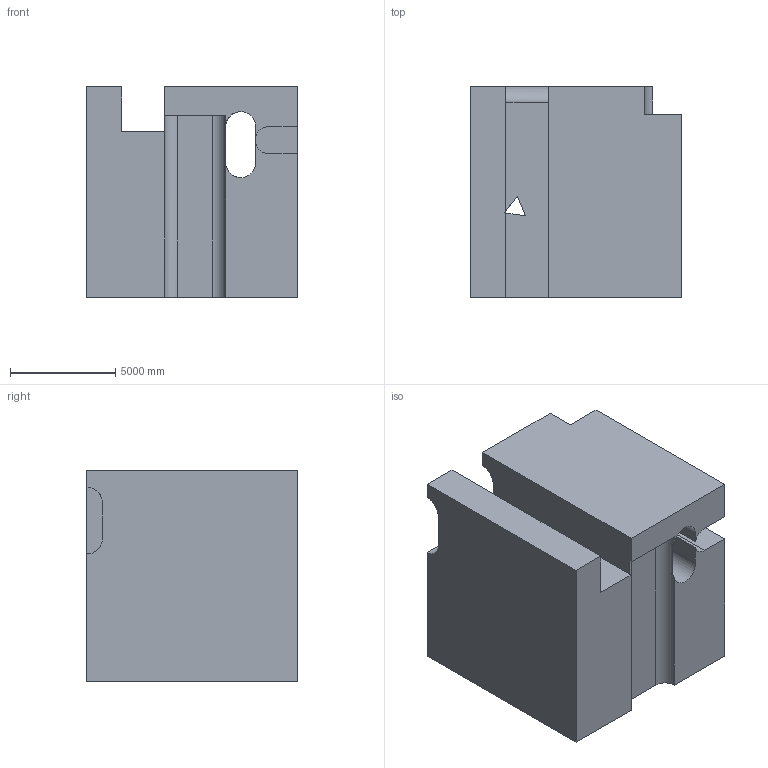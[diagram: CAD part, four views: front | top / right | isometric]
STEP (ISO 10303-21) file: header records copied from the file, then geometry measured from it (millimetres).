
FILE_DESCRIPTION (( 'STEP AP203' ), '1' );
FILE_NAME ('1892.STEP', '2022-08-26T13:32:10', ( 'user' ), ( '' ), 'SwSTEP 2.0', 'SolidWorks 2021', '' );
FILE_SCHEMA (( 'CONFIG_CONTROL_DESIGN' ));
Length unit declared in the file: centimetre
Products named in the file (1): 1892
Bounding box: 10000 x 10000 x 10000 mm (x, y, z)
Volume: 847062925308.7 mm3; surface area: 757678750.9 mm2
Topology: 1 solids, 1 shells, 45 faces, 135 edges, 90 vertices
Faces by surface type: plane 31, cylinder 14
Entity records: 1861 total; most frequent: CARTESIAN_POINT 540, ORIENTED_EDGE 270, DIRECTION 251, EDGE_CURVE 135, VECTOR 99, LINE 99, VERTEX_POINT 90, AXIS2_PLACEMENT_3D 76
